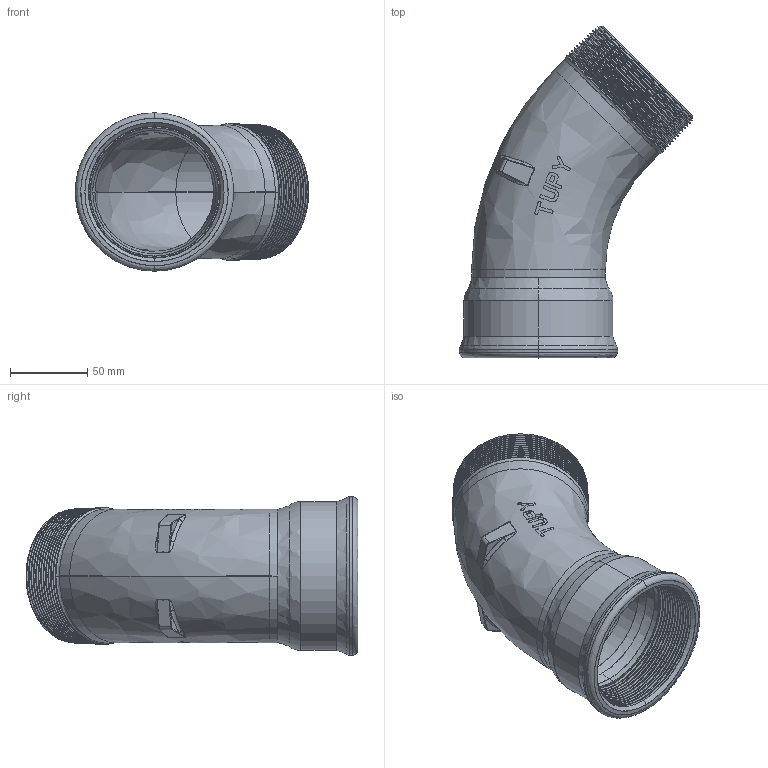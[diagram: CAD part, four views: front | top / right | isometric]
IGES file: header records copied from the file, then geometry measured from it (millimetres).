
Start section: SolidWorks IGES file using analytic representation for surfaces
Global section: file name: C:\Users\Joel Rosa\Desktop\Tubulação\12-27-OK\12-27-012.IGS; native system: SolidWorks 2011; preprocessor: SolidWorks 2011; author: Joel Rosa; date: 131025.232556; units: millimetre
Bounding box: 150.97 x 214.77 x 102.4 mm (x, y, z)
Surface area: 124519.8 mm2 (no closed solid volume)
Topology: 0 solids, 0 shells, 410 faces, 3597 edges, 3597 vertices
Faces by surface type: bspline 278, revolution 132
